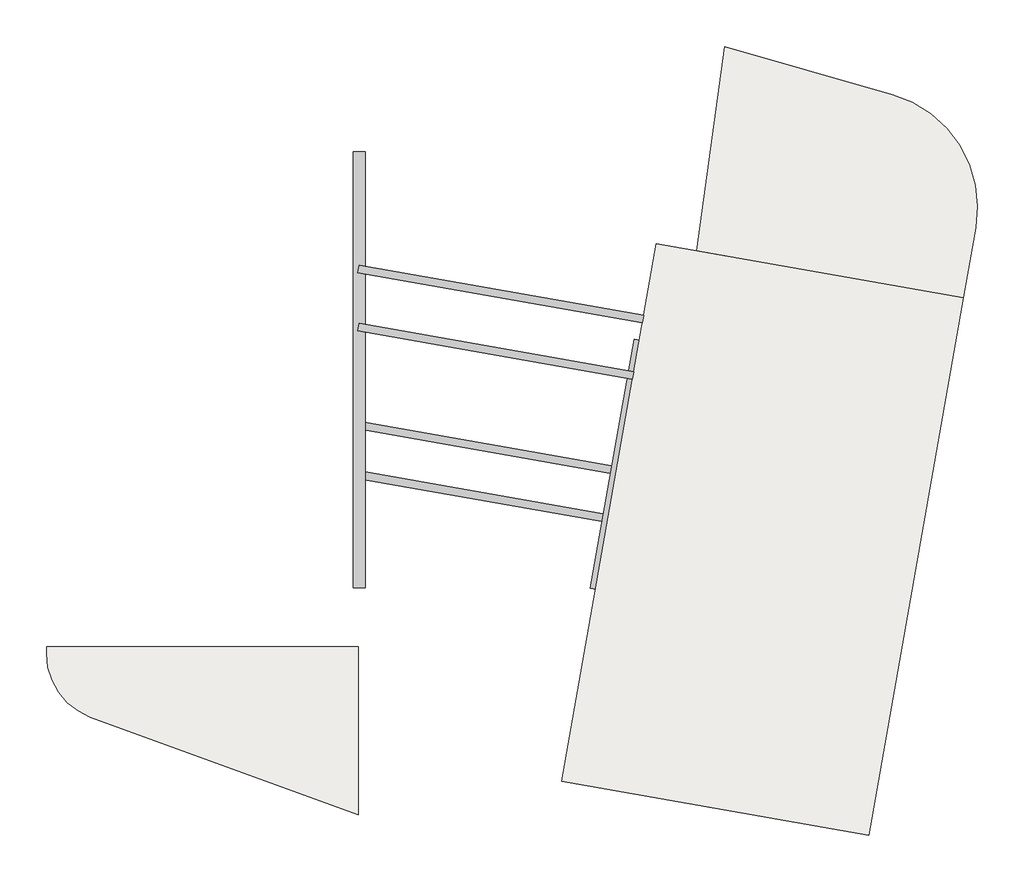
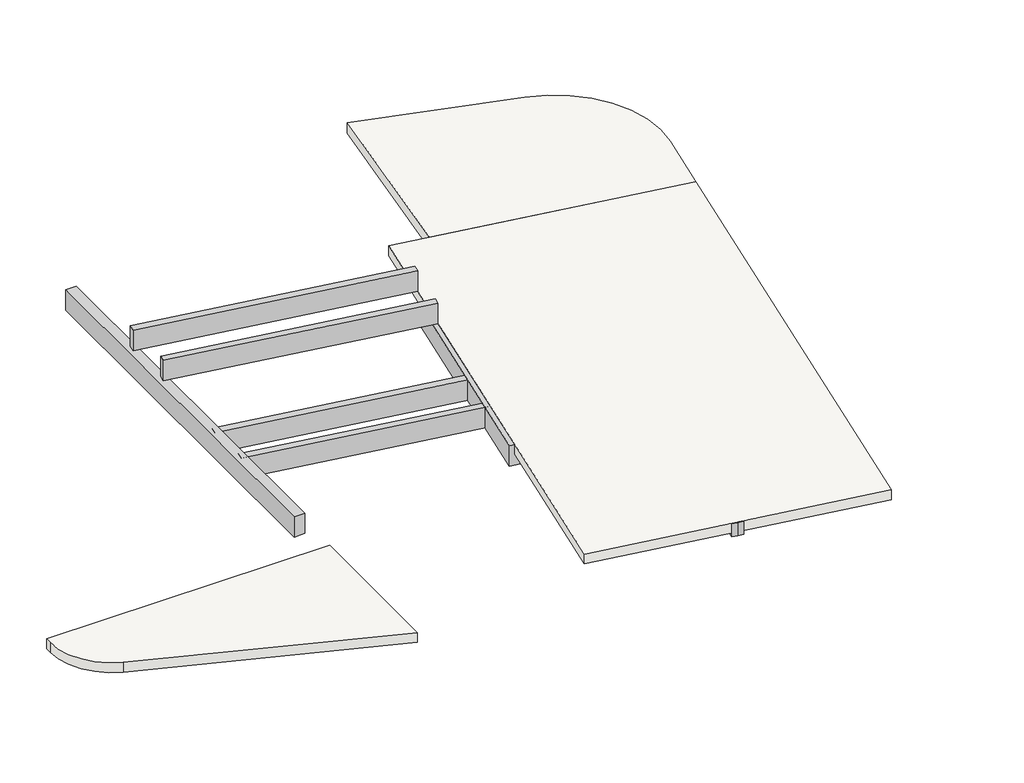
# One storey: 8 beams, 3 slabs.
"""IFC4 building model written with IfcOpenShell, lengths in millimetres."""

from ifc_helpers import new_model, si_unit, point, frame, frame_2d, origin, place, context, project, spatial, polyline, circle_curve, trimmed, segment, composite_curve, outline, extrude, transform, mapped, element, save
from ifc_brep_helpers import plane_surface, cylinder_surface, advanced_brep
from components import hb_140x350_634b48ad, hb_180x550_dfd28379, hb_180x550_727a1a51, hb_180x550_4b15fb5d, hb_180x550_eef674f7, hb_271x550_97b6418f, hb_271x550_1aaee8ac

model = new_model("IFC4")

# Units and contexts
model_context = context("Model", 3, world=origin())
ifc_project = project(units=[si_unit("LENGTHUNIT", "METRE", prefix="MILLI")], contexts=[model_context])

# Site, building, storey
site = spatial("IfcSite", under=ifc_project)
building = spatial("IfcBuilding", under=site)
storey = spatial("IfcBuildingStorey", under=building, Name="01 1e verd. b.k. ruwe vloer", Elevation=3000.0)

# Beams
placement = place(None, origin())
hb_140x350_shape = hb_140x350_634b48ad(model_context)
element("IfcBeam", 1, ObjectType="NLRS_28_SF_LIB_balk hout gelamineerd_generiek_ISR : HB 140x350", at=placement, inside=storey, context=model_context, shape_type="MappedRepresentation", body=[
    mapped(hb_140x350_shape, transform((26436.7904578, 12491.5939375, 2807.0), x_axis=(-0.17364817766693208, -0.9848077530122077, 0.0), y_axis=(0.9848077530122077, -0.17364817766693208, 0.0), z_axis=(0.0, 0.0, 1.0))),
])
element("IfcBeam", 2, ObjectType="NLRS_28_SF_LIB_balk hout gelamineerd_generiek_ISR : HB 140x350", at=placement, inside=storey, context=model_context, shape_type="MappedRepresentation", body=[
    mapped(hb_140x350_shape, transform((26574.6635432, 12467.2831926, 2807.0), x_axis=(-0.1736481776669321, -0.9848077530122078, 0.0), y_axis=(0.9848077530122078, -0.1736481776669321, 0.0), z_axis=(0.0, 0.0, 1.0))),
])
hb_180x550_shape = hb_180x550_dfd28379(model_context)
element("IfcBeam", 3, ObjectType="NLRS_28_SF_LIB_balk hout gelamineerd_generiek_ISR : HB 180x550", at=placement, inside=storey, context=model_context, shape_type="MappedRepresentation", body=[
    mapped(hb_180x550_shape, transform((20055.1413509, 13469.5965791, 2705.0), x_axis=(0.9848077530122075, -0.1736481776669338, 0.0), y_axis=(0.1736481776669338, 0.9848077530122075, 0.0), z_axis=(0.0, 0.0, 1.0))),
])
hb_180x550_2_shape = hb_180x550_727a1a51(model_context)
element("IfcBeam", 4, ObjectType="NLRS_28_SF_LIB_balk hout gelamineerd_generiek_ISR : HB 180x550", at=placement, inside=storey, context=model_context, shape_type="MappedRepresentation", body=[
    mapped(hb_180x550_2_shape, transform((20153.1843893, 14598.9436139, 2705.0), x_axis=(0.9848077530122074, -0.17364817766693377, 0.0), y_axis=(0.17364817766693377, 0.9848077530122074, 0.0), z_axis=(0.0, 0.0, 1.0))),
])
hb_180x550_3_shape = hb_180x550_4b15fb5d(model_context)
element("IfcBeam", 5, ObjectType="NLRS_28_SF_LIB_balk hout gelamineerd_generiek_ISR : HB 180x550", at=placement, inside=storey, context=model_context, shape_type="MappedRepresentation", body=[
    mapped(hb_180x550_3_shape, transform((20461.2179124, 18147.1480745, 3275.0), x_axis=(0.9848077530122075, -0.1736481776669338, 0.0), y_axis=(0.1736481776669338, 0.9848077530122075, 0.0), z_axis=(0.0, 0.0, 1.0))),
])
hb_180x550_4_shape = hb_180x550_eef674f7(model_context)
element("IfcBeam", 6, ObjectType="NLRS_28_SF_LIB_balk hout gelamineerd_generiek_ISR : HB 180x550", at=placement, inside=storey, context=model_context, shape_type="MappedRepresentation", body=[
    mapped(hb_180x550_4_shape, transform((20346.6926935, 16827.944604, 3275.0), x_axis=(0.9848077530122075, -0.1736481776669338, 0.0), y_axis=(0.1736481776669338, 0.9848077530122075, 0.0), z_axis=(0.0, 0.0, 1.0))),
])
hb_271x550_shape = hb_271x550_97b6418f(model_context)
element("IfcBeam", 7, ObjectType="NLRS_28_SF_LIB_balk hout gelamineerd_generiek_ISR : HB 271x550", at=placement, inside=storey, context=model_context, shape_type="MappedRepresentation", body=[
    mapped(hb_271x550_shape, transform((17195.5, 16628.5704001, 2707.0), x_axis=(0.0, -1.0, 0.0), y_axis=(1.0, 0.0, 0.0), z_axis=(0.0, 0.0, 1.0))),
])
hb_271x550_2_shape = hb_271x550_1aaee8ac(model_context)
element("IfcBeam", 8, ObjectType="NLRS_28_SF_LIB_balk hout gelamineerd_generiek_ISR : HB 271x550", at=placement, inside=storey, context=model_context, shape_type="MappedRepresentation", body=[
    mapped(hb_271x550_2_shape, transform((23322.5562875, 15074.8519395, 2707.0), x_axis=(-0.17364817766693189, -0.9848077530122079, 0.0), y_axis=(0.9848077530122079, -0.17364817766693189, 0.0), z_axis=(0.0, 0.0, 1.0))),
])

# Slabs
element("IfcSlab", 9, ObjectType="NLRS_23_FL Houten_balklaag_71x246+underlayment_d=18", at=placement, inside=storey, context=model_context, shape_type="SweptSolid", body=[
    extrude(outline(polyline([(31145.0184306, 18058.5939694), (28957.051392, 5650.0162815), (21866.4355703, 6900.2831607), (24054.4026089, 19308.8608486), (31145.0184306, 18058.5939694)])), frame((0.0, 0.0, 2736.0), z_axis=(0.0, 0.0, 1.0), x_axis=(1.0, 0.0, 0.0)), (0.0, 0.0, 1.0), 264.0),
])
element("IfcSlab", 10, ObjectType="NLRS_23_FL Houten_balklaag_71x246+underlayment_d=18", at=placement, inside=storey, context=model_context, shape_type="SweptSolid", body=[
    extrude(outline(composite_curve([segment(polyline([(17175.0, 10000.0), (17175.0, 6126.3637159), (10984.6946308, 8379.4506113)]), True, "CONTINUOUS"), segment(trimmed(circle_curve(frame_2d((11547.2701938, 9847.6320991)), 1572.2748314), [point((10984.6946308, 8379.4506113))], [point((9975.0, 9843.8133248))], False, "CARTESIAN"), True, "CONTINUOUS"), segment(polyline([(9975.0, 9843.8133248), (9975.0, 10000.0), (17175.0, 10000.0)]), True, "CONTINUOUS")], self_intersect=False)), frame((0.0, 0.0, 2736.0), z_axis=(0.0, 0.0, 1.0), x_axis=(1.0, 0.0, 0.0)), (0.0, 0.0, 1.0), 264.0),
])
element("IfcSlab", 11, ObjectType="NLRS_23_FL Houten_balklaag_71x271+underlayment_d=18", at=placement, inside=storey, context=model_context, shape_type="AdvancedBrep", body=[
    advanced_brep(
    [(24993.5226361, 19143.2686497, 2711.0), (25631.1423726, 23862.8197008, 2711.0), (29506.6301412, 22751.5414831, 2711.0), (31430.1812327, 19676.1153652, 2711.0), (31145.0184306, 18058.5939694, 2711.0), (24993.5226361, 19143.2686497, 3000.0), (31145.0184306, 18058.5939694, 3000.0), (31430.229591, 19676.1068383, 3000.0), (29506.6301412, 22751.5414831, 3000.0), (25631.1423726, 23862.8197008, 3000.0)],
    [
        (0, 1),
        (1, 2),
        (2, 3, circle_curve(frame((28762.0561851, 20146.577799, 2711.0), z_axis=(0.0, 0.0, -1.0), x_axis=(1.0, 0.0, 0.0)), 2709.2851772)),
        (3, 4),
        (4, 0),
        (5, 6),
        (6, 7),
        (7, 8, circle_curve(frame((28762.0561851, 20146.577799, 3000.0), z_axis=(0.0, 0.0, 1.0), x_axis=(1.0, 0.0, 0.0)), 2709.2851772)),
        (8, 9),
        (9, 5),
        (0, 5),
        (9, 1),
        (8, 2),
        (7, 3),
        (6, 4),
    ],
    [
        plane_surface(frame((25399.0415858, 22144.849805, 2711.0), z_axis=(0.0, 0.0, -1.0), x_axis=(0.13388543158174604, 0.9909968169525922, 0.0))),
        plane_surface(frame((25399.0415858, 22144.849805, 3000.0), z_axis=(0.0, 0.0, 1.0), x_axis=(-0.13388543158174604, -0.9909968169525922, 0.0))),
        plane_surface(frame((24993.5226361, 19143.2686497, 2711.0), z_axis=(-0.9909968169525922, 0.13388543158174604, 0.0), x_axis=(0.0, 0.0, 1.0))),
        plane_surface(frame((25631.1423726, 23862.8197008, 2711.0), z_axis=(0.27563735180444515, 0.9612616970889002, 0.0), x_axis=(0.0, 0.0, 1.0))),
        cylinder_surface(frame((28762.0561851, 20146.577799, 3000.0), z_axis=(0.0, 0.0, -1.0), x_axis=(1.0, 0.0, 0.0)), 2709.2851772),
        plane_surface(frame((31430.229591, 19676.1068383, 2711.0), z_axis=(0.9848077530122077, -0.17364817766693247, 0.0), x_axis=(0.0, 0.0, 1.0))),
        plane_surface(frame((31145.0184306, 18058.5939694, 2711.0), z_axis=(-0.17364817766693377, -0.9848077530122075, 0.0), x_axis=(0.0, 0.0, 1.0))),
    ],
    [
        (0, [[1, 2, 3, 4, 5]]),
        (1, [[6, 7, 8, 9, 10]]),
        (2, [[-1, 11, -10, 12]]),
        (3, [[-2, -12, -9, 13]]),
        (4, [[-3, -13, -8, 14]]),
        (5, [[-4, -14, -7, 15]]),
        (6, [[-5, -15, -6, -11]]),
    ],
),
])

save(model, "model.ifc")
